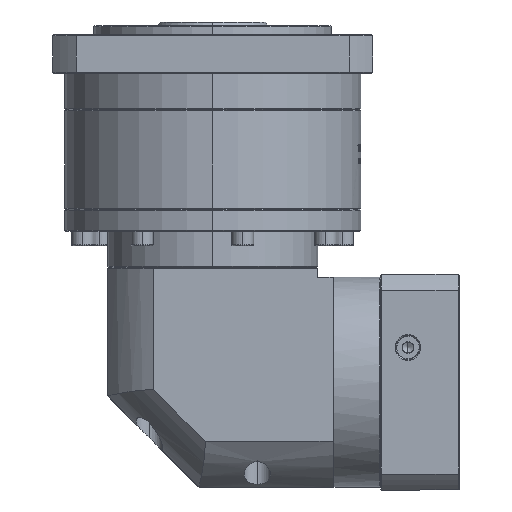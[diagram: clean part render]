
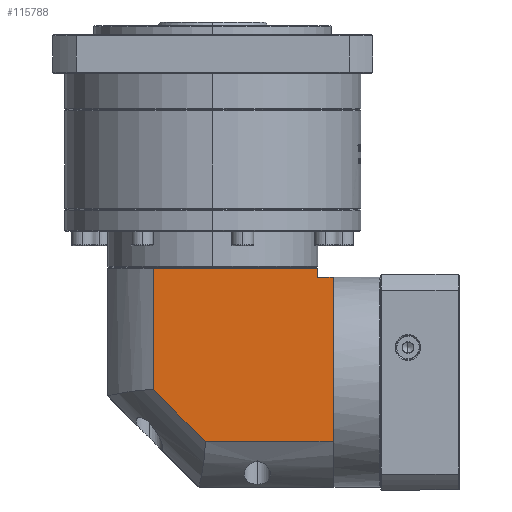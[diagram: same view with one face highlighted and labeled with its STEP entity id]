
A CAD part, left-side view. The second image highlights one B-rep face of the part: STEP entity #115788.
In plain terms, the highlighted planar face has unit normal (-1, 0, 0).
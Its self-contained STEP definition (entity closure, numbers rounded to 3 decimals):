
#1104 = LINE ( 'NONE', #123156, #103948 ) ;
#3419 = AXIS2_PLACEMENT_3D ( 'NONE', #117156, #69975, #81004 ) ;
#4431 = LINE ( 'NONE', #88125, #26910 ) ;
#5114 = VERTEX_POINT ( 'NONE', #139792 ) ;
#7193 = DIRECTION ( 'NONE',  ( 0., 1., 0. ) ) ;
#7350 = DIRECTION ( 'NONE',  ( 0., 0., 1. ) ) ;
#14588 = EDGE_LOOP ( 'NONE', ( #97219, #65271, #55856, #18294, #83567, #90229, #105019 ) ) ;
#18294 = ORIENTED_EDGE ( 'NONE', *, *, #39021, .F. ) ;
#20664 = CARTESIAN_POINT ( 'NONE',  ( -257.067, -93.919, -24.999 ) ) ;
#26339 = DIRECTION ( 'NONE',  ( 0., 1., 0. ) ) ;
#26588 = EDGE_CURVE ( 'NONE', #123184, #91197, #4431, .T. ) ;
#26910 = VECTOR ( 'NONE', #124232, 1000. ) ;
#31170 = VECTOR ( 'NONE', #120884, 1000. ) ;
#34942 = VERTEX_POINT ( 'NONE', #20664 ) ;
#36846 = CARTESIAN_POINT ( 'NONE',  ( -257.067, 29.481, -24.999 ) ) ;
#39021 = EDGE_CURVE ( 'NONE', #104293, #34942, #90630, .T. ) ;
#39548 = EDGE_CURVE ( 'NONE', #5114, #142522, #88357, .T. ) ;
#44388 = VERTEX_POINT ( 'NONE', #140475 ) ;
#46319 = LINE ( 'NONE', #148254, #48196 ) ;
#48196 = VECTOR ( 'NONE', #7193, 1000. ) ;
#53489 = CARTESIAN_POINT ( 'NONE',  ( -257.067, -93.919, 76.401 ) ) ;
#55856 = ORIENTED_EDGE ( 'NONE', *, *, #118721, .F. ) ;
#57274 = EDGE_CURVE ( 'NONE', #104293, #123184, #46319, .T. ) ;
#62185 = FACE_OUTER_BOUND ( 'NONE', #14588, .T. ) ;
#65044 = DIRECTION ( 'NONE',  ( 0., 0.707, 0.707 ) ) ;
#65130 = VECTOR ( 'NONE', #26339, 1000. ) ;
#65271 = ORIENTED_EDGE ( 'NONE', *, *, #104891, .F. ) ;
#69129 = CARTESIAN_POINT ( 'NONE',  ( -257.067, 4.381, 69.901 ) ) ;
#69975 = DIRECTION ( 'NONE',  ( 1., 0., 0. ) ) ;
#80490 = PLANE ( 'NONE',  #3419 ) ;
#81004 = DIRECTION ( 'NONE',  ( 0., 1., 0. ) ) ;
#82505 = CARTESIAN_POINT ( 'NONE',  ( -257.067, -85.519, 69.901 ) ) ;
#83567 = ORIENTED_EDGE ( 'NONE', *, *, #57274, .T. ) ;
#88125 = CARTESIAN_POINT ( 'NONE',  ( -257.067, -85.519, -50.099 ) ) ;
#88357 = LINE ( 'NONE', #136959, #136954 ) ;
#89791 = EDGE_CURVE ( 'NONE', #142522, #91197, #126534, .T. ) ;
#90229 = ORIENTED_EDGE ( 'NONE', *, *, #26588, .T. ) ;
#90630 = LINE ( 'NONE', #53489, #92434 ) ;
#91197 = VERTEX_POINT ( 'NONE', #82505 ) ;
#92434 = VECTOR ( 'NONE', #115761, 1000. ) ;
#97219 = ORIENTED_EDGE ( 'NONE', *, *, #39548, .F. ) ;
#99794 = CARTESIAN_POINT ( 'NONE',  ( -257.067, -93.919, 64.901 ) ) ;
#103948 = VECTOR ( 'NONE', #65044, 1000. ) ;
#104293 = VERTEX_POINT ( 'NONE', #99794 ) ;
#104891 = EDGE_CURVE ( 'NONE', #44388, #5114, #1104, .T. ) ;
#105019 = ORIENTED_EDGE ( 'NONE', *, *, #89791, .F. ) ;
#115761 = DIRECTION ( 'NONE',  ( 0., 0., -1. ) ) ;
#115788 = ADVANCED_FACE ( 'NONE', ( #62185 ), #80490, .F. ) ;
#117156 = CARTESIAN_POINT ( 'NONE',  ( -257.067, 29.481, 76.401 ) ) ;
#117715 = LINE ( 'NONE', #36846, #65130 ) ;
#118721 = EDGE_CURVE ( 'NONE', #34942, #44388, #117715, .T. ) ;
#120884 = DIRECTION ( 'NONE',  ( 0., -1., 0. ) ) ;
#123156 = CARTESIAN_POINT ( 'NONE',  ( -257.067, -23.957, -24.999 ) ) ;
#123184 = VERTEX_POINT ( 'NONE', #152419 ) ;
#124232 = DIRECTION ( 'NONE',  ( 0., 0., 1. ) ) ;
#126534 = LINE ( 'NONE', #141182, #31170 ) ;
#136954 = VECTOR ( 'NONE', #7350, 1000. ) ;
#136959 = CARTESIAN_POINT ( 'NONE',  ( -257.067, 4.381, 76.401 ) ) ;
#139792 = CARTESIAN_POINT ( 'NONE',  ( -257.067, 4.381, 3.339 ) ) ;
#140475 = CARTESIAN_POINT ( 'NONE',  ( -257.067, -23.957, -24.999 ) ) ;
#141182 = CARTESIAN_POINT ( 'NONE',  ( -257.067, 29.481, 69.901 ) ) ;
#142522 = VERTEX_POINT ( 'NONE', #69129 ) ;
#148254 = CARTESIAN_POINT ( 'NONE',  ( -257.067, -85.519, 64.901 ) ) ;
#152419 = CARTESIAN_POINT ( 'NONE',  ( -257.067, -85.519, 64.901 ) ) ;
